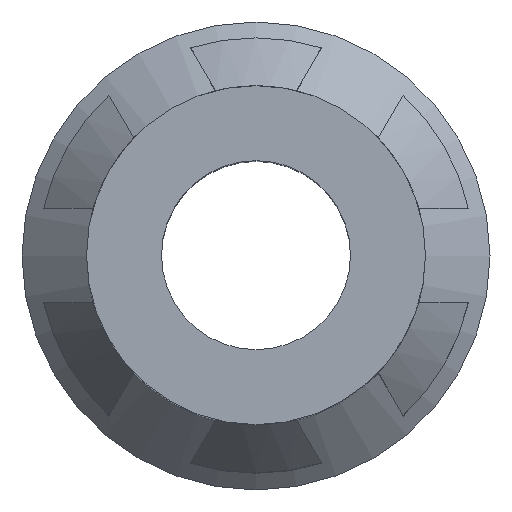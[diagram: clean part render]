
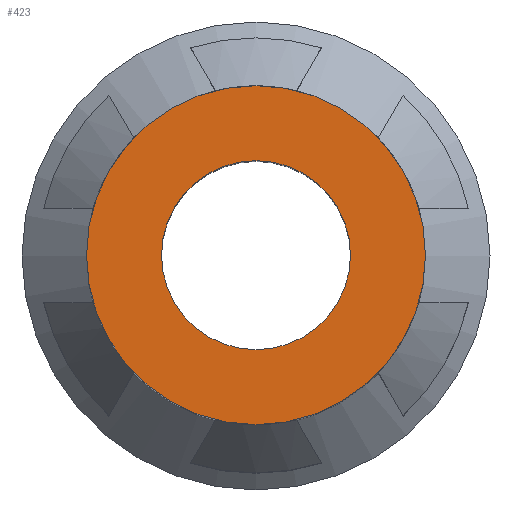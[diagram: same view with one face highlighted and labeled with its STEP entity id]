
A CAD part, top view. The second image highlights one B-rep face of the part: STEP entity #423.
In plain terms, the highlighted planar face has unit normal (0, 0, 1).
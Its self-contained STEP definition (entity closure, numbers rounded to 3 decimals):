
#42 = CARTESIAN_POINT ( 'NONE',  ( 10.068, 0., -14.161 ) ) ;
#147 = CARTESIAN_POINT ( 'NONE',  ( 10.068, 0., -14.161 ) ) ;
#206 = CARTESIAN_POINT ( 'NONE',  ( 9.268, 0., -14.161 ) ) ;
#259 = FACE_BOUND ( 'NONE', #1441, .T. ) ;
#367 = DIRECTION ( 'NONE',  ( 0., 0., -1. ) ) ;
#417 = CIRCLE ( 'NONE', #1315, 0.8 ) ;
#423 = ADVANCED_FACE ( 'NONE', ( #259, #1935 ), #1645, .F. ) ;
#627 = DIRECTION ( 'NONE',  ( 0., 0., -1. ) ) ;
#639 = EDGE_LOOP ( 'NONE', ( #1593 ) ) ;
#679 = CIRCLE ( 'NONE', #1068, 1.435 ) ;
#711 = DIRECTION ( 'NONE',  ( -1., 0., 0. ) ) ;
#816 = AXIS2_PLACEMENT_3D ( 'NONE', #1070, #1864, #1665 ) ;
#939 = VERTEX_POINT ( 'NONE', #206 ) ;
#1068 = AXIS2_PLACEMENT_3D ( 'NONE', #42, #367, #711 ) ;
#1070 = CARTESIAN_POINT ( 'NONE',  ( 11.503, 0., -14.161 ) ) ;
#1315 = AXIS2_PLACEMENT_3D ( 'NONE', #147, #627, #2034 ) ;
#1441 = EDGE_LOOP ( 'NONE', ( #2101 ) ) ;
#1592 = EDGE_CURVE ( 'NONE', #939, #939, #417, .T. ) ;
#1593 = ORIENTED_EDGE ( 'NONE', *, *, #2184, .F. ) ;
#1645 = PLANE ( 'NONE',  #816 ) ;
#1665 = DIRECTION ( 'NONE',  ( -1., 0., 0. ) ) ;
#1783 = VERTEX_POINT ( 'NONE', #2236 ) ;
#1864 = DIRECTION ( 'NONE',  ( 0., 0., -1. ) ) ;
#1935 = FACE_OUTER_BOUND ( 'NONE', #639, .T. ) ;
#2034 = DIRECTION ( 'NONE',  ( -1., 0., 0. ) ) ;
#2101 = ORIENTED_EDGE ( 'NONE', *, *, #1592, .T. ) ;
#2184 = EDGE_CURVE ( 'NONE', #1783, #1783, #679, .T. ) ;
#2236 = CARTESIAN_POINT ( 'NONE',  ( 8.633, 0., -14.161 ) ) ;
